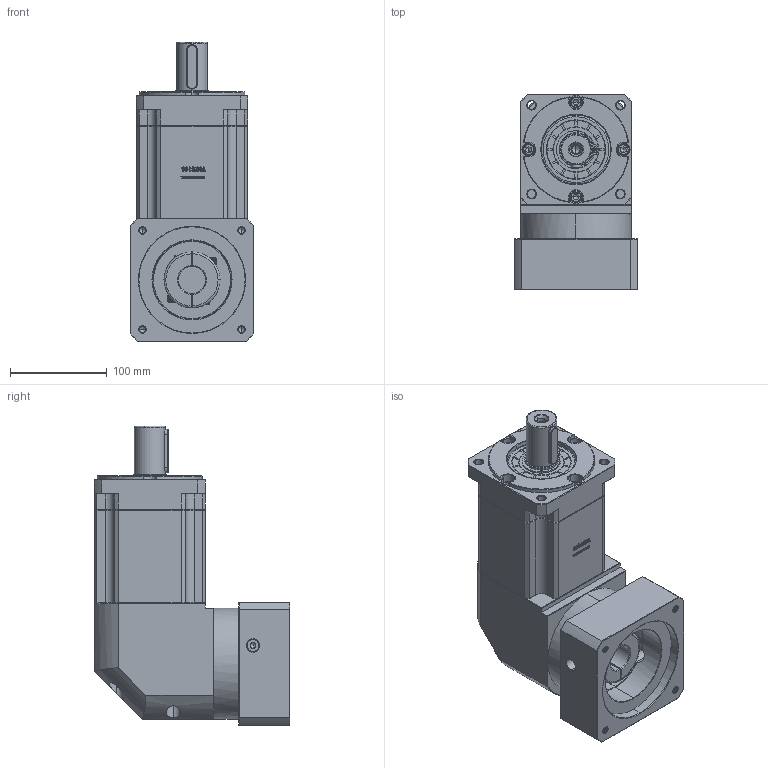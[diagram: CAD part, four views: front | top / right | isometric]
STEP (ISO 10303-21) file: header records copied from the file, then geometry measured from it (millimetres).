
FILE_DESCRIPTION (( 'STEP AP214' ), '1' );
FILE_NAME ('ZBR115A-D32-L3-28-110-145-M8.step', '2023-03-03T05:04:41', ( '' ), ( 'Microsoft' ), 'SwSTEP 2.0', 'SolidWorks 2016', '' );
FILE_SCHEMA (( 'AUTOMOTIVE_DESIGN' ));
Length unit declared in the file: millimetre
Products named in the file (1): ZBR115A-D32-L3-28-110-145-M8
Bounding box: 128 x 202.4 x 310 mm (x, y, z)
Volume: 3821949.8 mm3; surface area: 286873.7 mm2
Topology: 6 solids, 6 shells, 2984 faces, 7915 edges, 5074 vertices
Faces by surface type: plane 1560, bspline 607, cylinder 439, cone 370, torus 8
Entity records: 162100 total; most frequent: CARTESIAN_POINT 60108, ORIENTED_EDGE 15770, DIRECTION 11931, EDGE_CURVE 7885, VECTOR 5311, LINE 5311, VERTEX_POINT 5074, AXIS2_PLACEMENT_3D 3310
